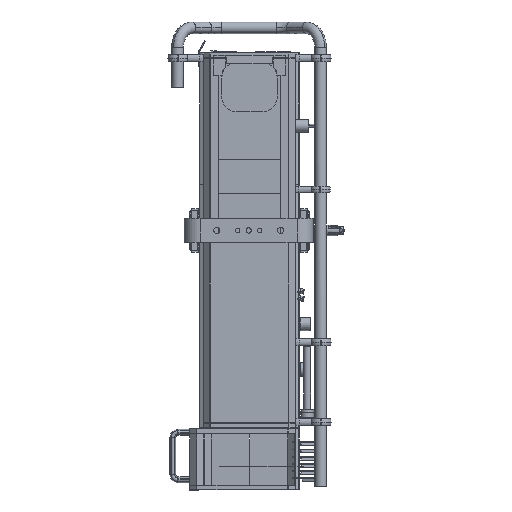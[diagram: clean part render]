
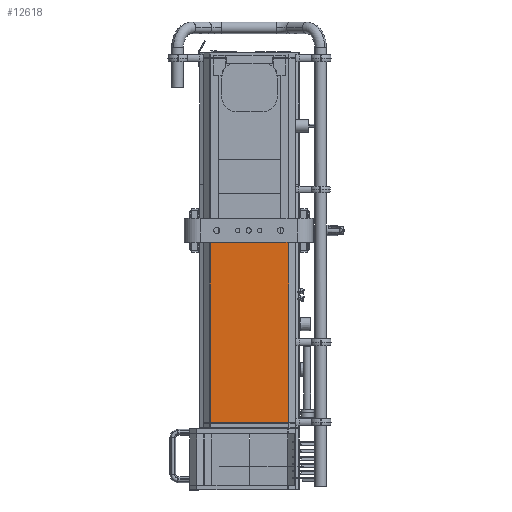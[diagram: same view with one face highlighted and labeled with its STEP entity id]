
A CAD part, front view. The second image highlights one B-rep face of the part: STEP entity #12618.
In plain terms, the highlighted planar face has unit normal (0, -1, 0).
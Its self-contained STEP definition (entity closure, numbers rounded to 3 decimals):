
#2571 = CARTESIAN_POINT ( 'NONE',  ( -115.15, -148.3, -28.8 ) ) ;
#2628 = DIRECTION ( 'NONE',  ( 0., 0., 1. ) ) ;
#2767 = LINE ( 'NONE', #42191, #5427 ) ;
#2886 = DIRECTION ( 'NONE',  ( -1., 0., 0. ) ) ;
#3085 = LINE ( 'NONE', #2571, #29312 ) ;
#3280 = DIRECTION ( 'NONE',  ( 0., 0., 1. ) ) ;
#5427 = VECTOR ( 'NONE', #19202, 1000. ) ;
#5756 = EDGE_CURVE ( 'NONE', #18936, #29043, #43197, .T. ) ;
#6537 = DIRECTION ( 'NONE',  ( -1., 0., 0. ) ) ;
#7967 = VERTEX_POINT ( 'NONE', #14490 ) ;
#10072 = DIRECTION ( 'NONE',  ( 0., 1., 0. ) ) ;
#10311 = EDGE_LOOP ( 'NONE', ( #21896, #22637, #29398, #23354 ) ) ;
#11642 = AXIS2_PLACEMENT_3D ( 'NONE', #43348, #10072, #2886 ) ;
#11751 = VECTOR ( 'NONE', #3280, 1000. ) ;
#12618 = ADVANCED_FACE ( 'NONE', ( #21999 ), #38092, .F. ) ;
#12787 = LINE ( 'NONE', #42813, #36899 ) ;
#14490 = CARTESIAN_POINT ( 'NONE',  ( -98.184, -148.3, -481. ) ) ;
#18883 = CARTESIAN_POINT ( 'NONE',  ( 98.184, -148.3, -481. ) ) ;
#18936 = VERTEX_POINT ( 'NONE', #32815 ) ;
#19202 = DIRECTION ( 'NONE',  ( -1., 0., 0. ) ) ;
#20446 = VERTEX_POINT ( 'NONE', #27089 ) ;
#21896 = ORIENTED_EDGE ( 'NONE', *, *, #5756, .T. ) ;
#21999 = FACE_OUTER_BOUND ( 'NONE', #10311, .T. ) ;
#22637 = ORIENTED_EDGE ( 'NONE', *, *, #44855, .T. ) ;
#23354 = ORIENTED_EDGE ( 'NONE', *, *, #36579, .F. ) ;
#26734 = CARTESIAN_POINT ( 'NONE',  ( 98.184, -148.3, -28.8 ) ) ;
#27089 = CARTESIAN_POINT ( 'NONE',  ( -98.184, -148.3, -28.8 ) ) ;
#29043 = VERTEX_POINT ( 'NONE', #26734 ) ;
#29312 = VECTOR ( 'NONE', #6537, 1000. ) ;
#29398 = ORIENTED_EDGE ( 'NONE', *, *, #44370, .F. ) ;
#32815 = CARTESIAN_POINT ( 'NONE',  ( 98.184, -148.3, -481. ) ) ;
#36579 = EDGE_CURVE ( 'NONE', #18936, #7967, #2767, .T. ) ;
#36899 = VECTOR ( 'NONE', #2628, 1000. ) ;
#38092 = PLANE ( 'NONE',  #11642 ) ;
#42191 = CARTESIAN_POINT ( 'NONE',  ( 98.35, -148.3, -481. ) ) ;
#42813 = CARTESIAN_POINT ( 'NONE',  ( -98.184, -148.3, -481. ) ) ;
#43197 = LINE ( 'NONE', #18883, #11751 ) ;
#43348 = CARTESIAN_POINT ( 'NONE',  ( 98.35, -148.3, -481. ) ) ;
#44370 = EDGE_CURVE ( 'NONE', #7967, #20446, #12787, .T. ) ;
#44855 = EDGE_CURVE ( 'NONE', #29043, #20446, #3085, .T. ) ;
